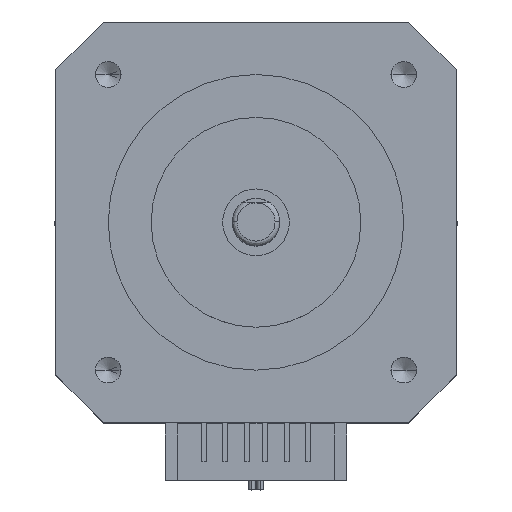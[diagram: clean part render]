
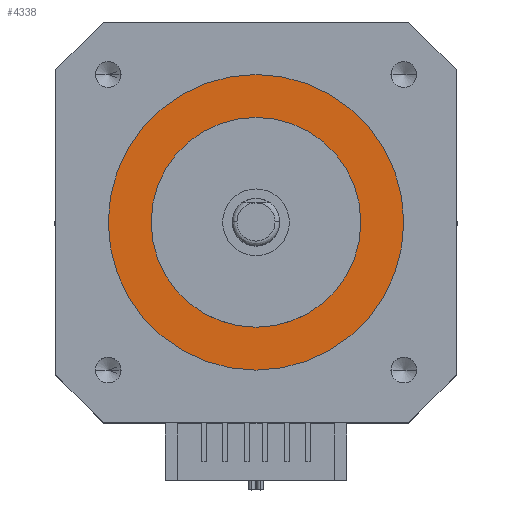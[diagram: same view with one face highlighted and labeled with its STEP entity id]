
A CAD part, top view. The second image highlights one B-rep face of the part: STEP entity #4338.
In plain terms, the highlighted planar face has unit normal (0, 0, 1).
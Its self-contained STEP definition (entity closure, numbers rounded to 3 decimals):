
#119 = AXIS2_PLACEMENT_3D ( 'NONE', #4948, #3020, #8554 ) ;
#130 = VERTEX_POINT ( 'NONE', #1366 ) ;
#202 = CARTESIAN_POINT ( 'NONE',  ( 0., 0., -0.1 ) ) ;
#331 = DIRECTION ( 'NONE',  ( 1., 0., 0. ) ) ;
#563 = ORIENTED_EDGE ( 'NONE', *, *, #4003, .T. ) ;
#671 = CARTESIAN_POINT ( 'NONE',  ( 0., 0., -0.1 ) ) ;
#1056 = DIRECTION ( 'NONE',  ( 0., 0., 1. ) ) ;
#1137 = EDGE_CURVE ( 'NONE', #3023, #3300, #3198, .T. ) ;
#1182 = EDGE_CURVE ( 'NONE', #3300, #3023, #1554, .T. ) ;
#1290 = ORIENTED_EDGE ( 'NONE', *, *, #3056, .T. ) ;
#1366 = CARTESIAN_POINT ( 'NONE',  ( -15.5, 0., -0.1 ) ) ;
#1469 = DIRECTION ( 'NONE',  ( -1., 0., 0. ) ) ;
#1554 = CIRCLE ( 'NONE', #6567, 11. ) ;
#2196 = EDGE_LOOP ( 'NONE', ( #3278, #3934 ) ) ;
#2785 = FACE_BOUND ( 'NONE', #2196, .T. ) ;
#2807 = PLANE ( 'NONE',  #119 ) ;
#3020 = DIRECTION ( 'NONE',  ( 0., 0., -1. ) ) ;
#3023 = VERTEX_POINT ( 'NONE', #3891 ) ;
#3056 = EDGE_CURVE ( 'NONE', #130, #5028, #3226, .T. ) ;
#3105 = FACE_OUTER_BOUND ( 'NONE', #9011, .T. ) ;
#3198 = CIRCLE ( 'NONE', #6089, 11. ) ;
#3226 = CIRCLE ( 'NONE', #7535, 15.5 ) ;
#3278 = ORIENTED_EDGE ( 'NONE', *, *, #1137, .F. ) ;
#3300 = VERTEX_POINT ( 'NONE', #4787 ) ;
#3654 = DIRECTION ( 'NONE',  ( 1., 0., 0. ) ) ;
#3891 = CARTESIAN_POINT ( 'NONE',  ( -11., 0., -0.1 ) ) ;
#3934 = ORIENTED_EDGE ( 'NONE', *, *, #1182, .F. ) ;
#4003 = EDGE_CURVE ( 'NONE', #5028, #130, #7163, .T. ) ;
#4338 = ADVANCED_FACE ( 'NONE', ( #2785, #3105 ), #2807, .F. ) ;
#4787 = CARTESIAN_POINT ( 'NONE',  ( 11., 0., -0.1 ) ) ;
#4948 = CARTESIAN_POINT ( 'NONE',  ( 0., 0., -0.1 ) ) ;
#5028 = VERTEX_POINT ( 'NONE', #6809 ) ;
#5205 = DIRECTION ( 'NONE',  ( -1., 0., 0. ) ) ;
#6089 = AXIS2_PLACEMENT_3D ( 'NONE', #671, #6394, #1469 ) ;
#6394 = DIRECTION ( 'NONE',  ( 0., 0., 1. ) ) ;
#6567 = AXIS2_PLACEMENT_3D ( 'NONE', #202, #8051, #5205 ) ;
#6587 = DIRECTION ( 'NONE',  ( 0., 0., 1. ) ) ;
#6809 = CARTESIAN_POINT ( 'NONE',  ( 15.5, 0., -0.1 ) ) ;
#7163 = CIRCLE ( 'NONE', #9235, 15.5 ) ;
#7306 = CARTESIAN_POINT ( 'NONE',  ( 0., 0., -0.1 ) ) ;
#7535 = AXIS2_PLACEMENT_3D ( 'NONE', #8240, #1056, #331 ) ;
#8051 = DIRECTION ( 'NONE',  ( 0., 0., 1. ) ) ;
#8240 = CARTESIAN_POINT ( 'NONE',  ( 0., 0., -0.1 ) ) ;
#8554 = DIRECTION ( 'NONE',  ( -1., 0., 0. ) ) ;
#9011 = EDGE_LOOP ( 'NONE', ( #563, #1290 ) ) ;
#9235 = AXIS2_PLACEMENT_3D ( 'NONE', #7306, #6587, #3654 ) ;
